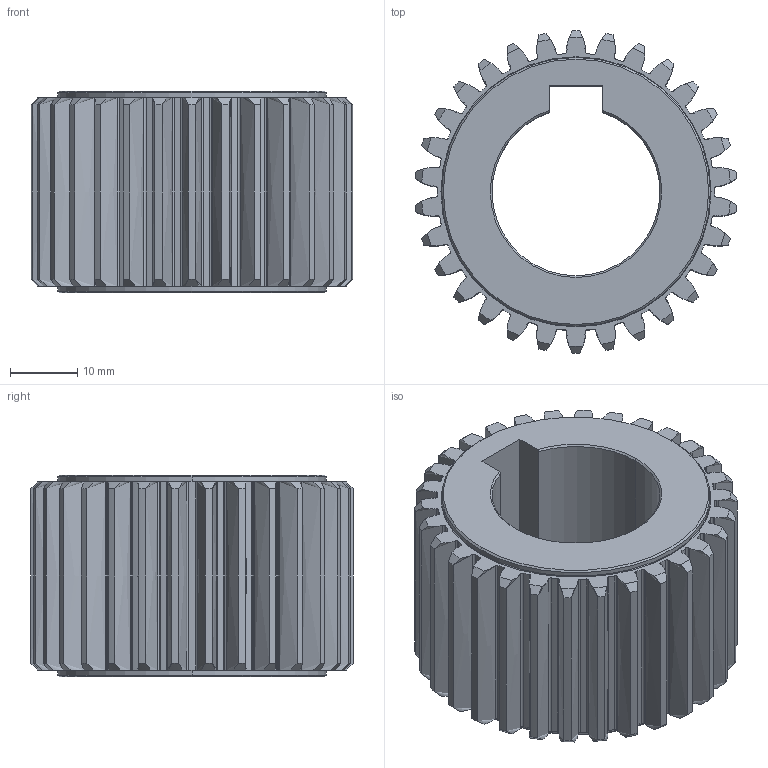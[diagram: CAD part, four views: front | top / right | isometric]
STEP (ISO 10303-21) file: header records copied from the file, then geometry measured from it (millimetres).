
FILE_DESCRIPTION (( 'STEP AP214' ), '1' );
FILE_NAME ('1SG__S015030S.STEP', '2021-08-03T07:24:16', ( '' ), ( '' ), 'SwSTEP 2.0', 'SolidWorks 2021', '' );
FILE_SCHEMA (( 'AUTOMOTIVE_DESIGN' ));
Length unit declared in the file: millimetre
Products named in the file (1): 1SG__S015030S
Bounding box: 47.84 x 48 x 30 mm (x, y, z)
Volume: 30845.9 mm3; surface area: 12789.2 mm2
Topology: 1 solids, 1 shells, 314 faces, 974 edges, 664 vertices
Faces by surface type: cylinder 113, bspline 90, cone 70, plane 37, torus 4
Entity records: 18212 total; most frequent: CARTESIAN_POINT 9855, ORIENTED_EDGE 1948, DIRECTION 1540, EDGE_CURVE 974, VERTEX_POINT 664, AXIS2_PLACEMENT_3D 585, VECTOR 370, LINE 370
